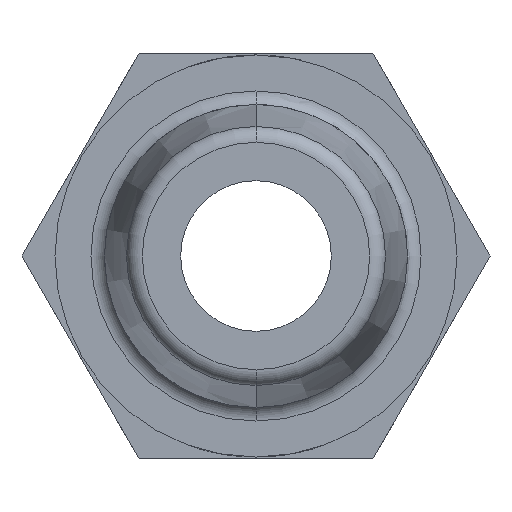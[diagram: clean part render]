
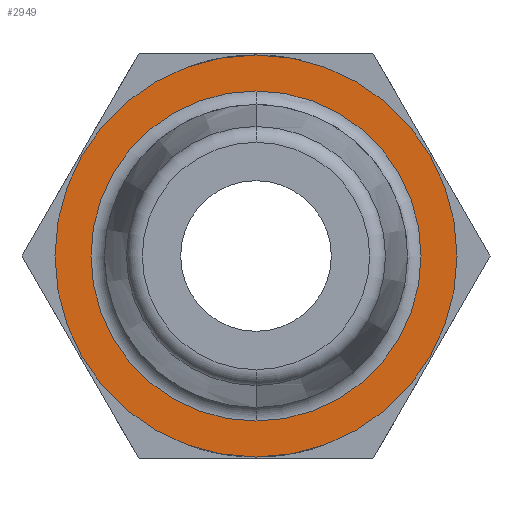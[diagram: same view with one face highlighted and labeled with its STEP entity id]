
A CAD part, left-side view. The second image highlights one B-rep face of the part: STEP entity #2949.
In plain terms, the highlighted planar face has unit normal (-1, 0, 0).
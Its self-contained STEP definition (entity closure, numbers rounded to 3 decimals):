
#56=FACE_BOUND('',#368,.T.);
#71=PLANE('',#3228);
#204=FACE_OUTER_BOUND('',#367,.T.);
#367=EDGE_LOOP('',(#2250,#2251));
#368=EDGE_LOOP('',(#2252,#2253));
#528=CIRCLE('',#3140,3.15);
#563=CIRCLE('',#3176,3.15);
#571=CIRCLE('',#3189,2.587);
#597=CIRCLE('',#3229,2.587);
#1265=VERTEX_POINT('',#5035);
#1266=VERTEX_POINT('',#5037);
#1364=VERTEX_POINT('',#5802);
#1365=VERTEX_POINT('',#5803);
#1583=EDGE_CURVE('',#1266,#1265,#528,.T.);
#1655=EDGE_CURVE('',#1265,#1266,#563,.T.);
#1697=EDGE_CURVE('',#1364,#1365,#571,.T.);
#1742=EDGE_CURVE('',#1365,#1364,#597,.T.);
#2250=ORIENTED_EDGE('',*,*,#1583,.T.);
#2251=ORIENTED_EDGE('',*,*,#1655,.T.);
#2252=ORIENTED_EDGE('',*,*,#1742,.T.);
#2253=ORIENTED_EDGE('',*,*,#1697,.T.);
#2949=ADVANCED_FACE('',(#204,#56),#71,.F.);
#3140=AXIS2_PLACEMENT_3D('',#5038,#3473,#3474);
#3176=AXIS2_PLACEMENT_3D('',#5320,#3576,#3577);
#3189=AXIS2_PLACEMENT_3D('',#5804,#3609,#3610);
#3228=AXIS2_PLACEMENT_3D('',#5895,#3705,#3706);
#3229=AXIS2_PLACEMENT_3D('',#5896,#3707,#3708);
#3473=DIRECTION('center_axis',(-1.,0.,0.));
#3474=DIRECTION('ref_axis',(0.,0.,1.));
#3576=DIRECTION('center_axis',(-1.,0.,0.));
#3577=DIRECTION('ref_axis',(0.,0.,
-1.));
#3609=DIRECTION('center_axis',(1.,0.,0.));
#3610=DIRECTION('ref_axis',(0.,0.,
1.));
#3705=DIRECTION('center_axis',(1.,0.,0.));
#3706=DIRECTION('ref_axis',(0.,0.,-1.));
#3707=DIRECTION('center_axis',(1.,0.,0.));
#3708=DIRECTION('ref_axis',(0.,0.,-1.));
#5035=CARTESIAN_POINT('',(-13.,0.,-3.15));
#5037=CARTESIAN_POINT('',(-13.,0.,3.15));
#5038=CARTESIAN_POINT('Origin',(-13.,0.,0.));
#5320=CARTESIAN_POINT('Origin',(-13.,0.,0.));
#5802=CARTESIAN_POINT('',(-13.,0.,2.587));
#5803=CARTESIAN_POINT('',(-13.,0.,-2.587));
#5804=CARTESIAN_POINT('Origin',(-13.,0.,0.));
#5895=CARTESIAN_POINT('Origin',(-13.,-3.188,0.));
#5896=CARTESIAN_POINT('Origin',(-13.,0.,0.));
